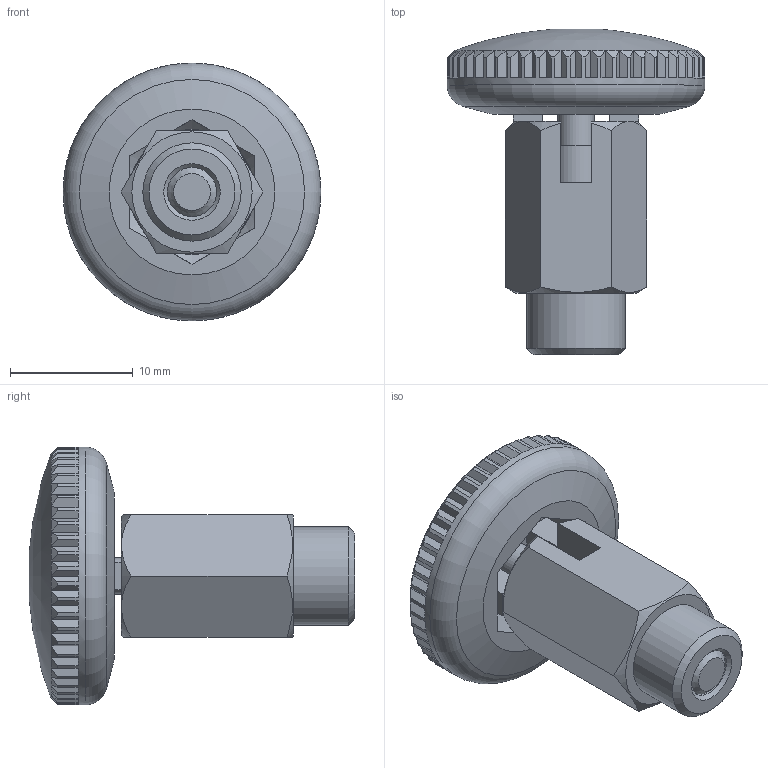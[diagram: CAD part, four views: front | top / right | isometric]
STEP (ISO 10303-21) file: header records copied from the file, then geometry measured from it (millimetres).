
FILE_DESCRIPTION( ( 'STEP AP203' ), '1' );
FILE_NAME( 'C:/Temp/Ganter_Step_05_03_2020/data/3_1/gn_822_1/gn822_1_stahl_rt/gn_822_1_c/Steel-Mini indexing plunger GN 822.1-4-C-ST-RT (activated).stp', '2020-03-12T09:23:14', ( 'License CC BY-ND 4.0' ), ( 'CADENAS' ), ' ', 'PARTsolutions', ' ' );
FILE_SCHEMA( ( 'CONFIG_CONTROL_DESIGN' ) );
Length unit declared in the file: millimetre
Products named in the file (3): Steel-Mini indexing plunger GN 822.1-4-C-ST-RT (activated); _Steel-Mini indexing plunger GN 822.1-4-C-ST-RT (activated)-1; _Steel-Mini indexing plunger GN 822.1-4-C-ST-RT (activated)-2
Assembly tree (2 placements, depth 2):
  Steel-Mini indexing plunger GN 822.1-4-C-ST-RT (activated)
    _Steel-Mini indexing plunger GN 822.1-4-C-ST-RT (activated)-1
    _Steel-Mini indexing plunger GN 822.1-4-C-ST-RT (activated)-2
Bounding box: 21 x 26.5 x 21 mm (x, y, z)
Volume: 2967.7 mm3; surface area: 2473.2 mm2
Topology: 2 solids, 2 shells, 275 faces, 789 edges, 521 vertices
Faces by surface type: plane 197, cone 69, cylinder 7, bspline 1, torus 1
Full cylindrical faces by diameter (mm): 3 x1, 4 x2, 8 x1, 21 x1
Entity records: 9337 total; most frequent: CARTESIAN_POINT 2425, ORIENTED_EDGE 1542, DIRECTION 1270, EDGE_CURVE 771, VERTEX_POINT 515, AXIS2_PLACEMENT_3D 468, LINE 334, VECTOR 334
